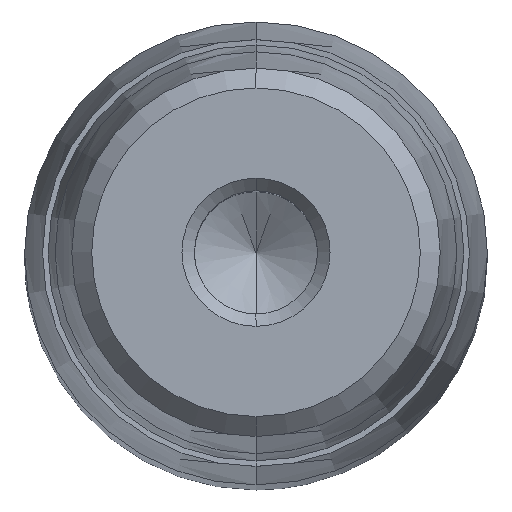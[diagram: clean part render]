
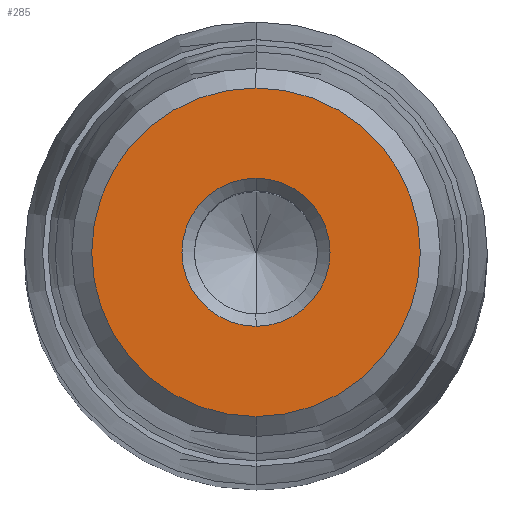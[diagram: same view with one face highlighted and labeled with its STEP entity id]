
A CAD part, top view. The second image highlights one B-rep face of the part: STEP entity #285.
In plain terms, the highlighted planar face has unit normal (0, 0, 1).
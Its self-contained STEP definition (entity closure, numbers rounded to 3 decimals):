
#164=CARTESIAN_POINT('Axis2P3D Location',(0.,0.,35.)) ;
#168=CARTESIAN_POINT('Vertex',(4.,0.,35.)) ;
#170=CARTESIAN_POINT('Vertex',(0.,-4.,35.)) ;
#173=CARTESIAN_POINT('Axis2P3D Location',(0.,0.,35.)) ;
#177=CARTESIAN_POINT('Vertex',(0.,4.,35.)) ;
#228=CARTESIAN_POINT('Axis2P3D Location',(0.,4.,35.)) ;
#233=CARTESIAN_POINT('Axis2P3D Location',(0.,0.,35.)) ;
#237=CARTESIAN_POINT('Vertex',(0.,8.875,35.)) ;
#239=CARTESIAN_POINT('Vertex',(8.875,0.,35.)) ;
#242=CARTESIAN_POINT('Axis2P3D Location',(0.,0.,35.)) ;
#246=CARTESIAN_POINT('Vertex',(-8.875,0.,35.)) ;
#249=CARTESIAN_POINT('Axis2P3D Location',(0.,0.,35.)) ;
#253=CARTESIAN_POINT('Vertex',(0.,-8.875,35.)) ;
#256=CARTESIAN_POINT('Axis2P3D Location',(0.,0.,35.)) ;
#267=CARTESIAN_POINT('Axis2P3D Location',(0.,0.,35.)) ;
#271=CARTESIAN_POINT('Vertex',(-4.,0.,35.)) ;
#274=CARTESIAN_POINT('Axis2P3D Location',(0.,0.,35.)) ;
#165=DIRECTION('Axis2P3D Direction',(-0.,0.,1.)) ;
#174=DIRECTION('Axis2P3D Direction',(-0.,0.,1.)) ;
#229=DIRECTION('Axis2P3D Direction',(0.,0.,-1.)) ;
#230=DIRECTION('Axis2P3D XDirection',(0.,1.,0.)) ;
#234=DIRECTION('Axis2P3D Direction',(0.,0.,-1.)) ;
#243=DIRECTION('Axis2P3D Direction',(0.,0.,-1.)) ;
#250=DIRECTION('Axis2P3D Direction',(0.,0.,-1.)) ;
#257=DIRECTION('Axis2P3D Direction',(0.,0.,-1.)) ;
#268=DIRECTION('Axis2P3D Direction',(0.,0.,-1.)) ;
#275=DIRECTION('Axis2P3D Direction',(0.,0.,-1.)) ;
#166=AXIS2_PLACEMENT_3D('Circle Axis2P3D',#164,#165,$) ;
#175=AXIS2_PLACEMENT_3D('Circle Axis2P3D',#173,#174,$) ;
#231=AXIS2_PLACEMENT_3D('Plane Axis2P3D',#228,#229,#230) ;
#235=AXIS2_PLACEMENT_3D('Circle Axis2P3D',#233,#234,$) ;
#244=AXIS2_PLACEMENT_3D('Circle Axis2P3D',#242,#243,$) ;
#251=AXIS2_PLACEMENT_3D('Circle Axis2P3D',#249,#250,$) ;
#258=AXIS2_PLACEMENT_3D('Circle Axis2P3D',#256,#257,$) ;
#269=AXIS2_PLACEMENT_3D('Circle Axis2P3D',#267,#268,$) ;
#276=AXIS2_PLACEMENT_3D('Circle Axis2P3D',#274,#275,$) ;
#262=ORIENTED_EDGE('',*,*,#241,.F.) ;
#263=ORIENTED_EDGE('',*,*,#248,.F.) ;
#264=ORIENTED_EDGE('',*,*,#255,.F.) ;
#265=ORIENTED_EDGE('',*,*,#260,.F.) ;
#280=ORIENTED_EDGE('',*,*,#172,.T.) ;
#281=ORIENTED_EDGE('',*,*,#273,.T.) ;
#282=ORIENTED_EDGE('',*,*,#278,.T.) ;
#283=ORIENTED_EDGE('',*,*,#179,.T.) ;
#284=FACE_BOUND('',#279,.T.) ;
#285=ADVANCED_FACE('722-25x180x203',(#266,#284),#232,.F.) ;
#167=CIRCLE('generated circle',#166,4.) ;
#176=CIRCLE('generated circle',#175,4.) ;
#236=CIRCLE('generated circle',#235,8.875) ;
#245=CIRCLE('generated circle',#244,8.875) ;
#252=CIRCLE('generated circle',#251,8.875) ;
#259=CIRCLE('generated circle',#258,8.875) ;
#270=CIRCLE('generated circle',#269,4.) ;
#277=CIRCLE('generated circle',#276,4.) ;
#172=EDGE_CURVE('',#169,#171,#167,.F.) ;
#179=EDGE_CURVE('',#178,#169,#176,.F.) ;
#241=EDGE_CURVE('',#238,#240,#236,.T.) ;
#248=EDGE_CURVE('',#247,#238,#245,.T.) ;
#255=EDGE_CURVE('',#254,#247,#252,.T.) ;
#260=EDGE_CURVE('',#240,#254,#259,.T.) ;
#273=EDGE_CURVE('',#171,#272,#270,.T.) ;
#278=EDGE_CURVE('',#272,#178,#277,.T.) ;
#261=EDGE_LOOP('',(#262,#263,#264,#265)) ;
#279=EDGE_LOOP('',(#280,#281,#282,#283)) ;
#266=FACE_OUTER_BOUND('',#261,.T.) ;
#232=PLANE('Plane',#231) ;
#169=VERTEX_POINT('',#168) ;
#171=VERTEX_POINT('',#170) ;
#178=VERTEX_POINT('',#177) ;
#238=VERTEX_POINT('',#237) ;
#240=VERTEX_POINT('',#239) ;
#247=VERTEX_POINT('',#246) ;
#254=VERTEX_POINT('',#253) ;
#272=VERTEX_POINT('',#271) ;
